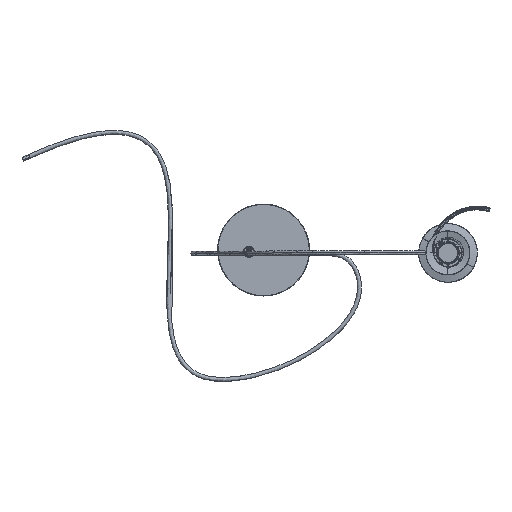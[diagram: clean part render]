
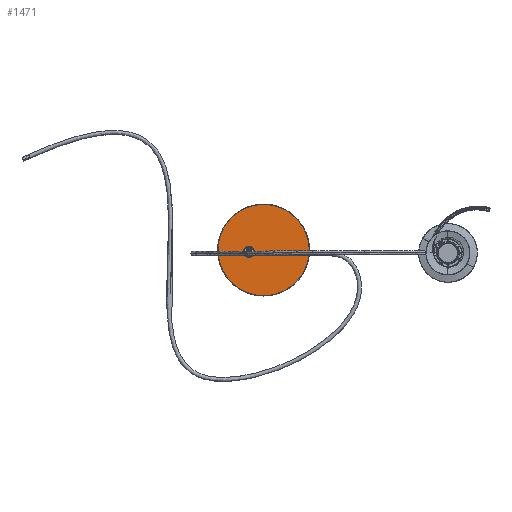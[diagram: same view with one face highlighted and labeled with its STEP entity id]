
A CAD part, top view. The second image highlights one B-rep face of the part: STEP entity #1471.
In plain terms, the highlighted planar face has unit normal (0, 0, 1).
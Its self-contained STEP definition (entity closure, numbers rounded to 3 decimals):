
#321=FACE_BOUND('',#3869,.T.);
#1471=ADVANCED_FACE('',(#2632,#321),#17466,.T.);
#2632=FACE_OUTER_BOUND('',#3868,.T.);
#3868=EDGE_LOOP('',(#9535,#9536));
#3869=EDGE_LOOP('',(#9537,#9538));
#9535=ORIENTED_EDGE('',*,*,#12418,.T.);
#9536=ORIENTED_EDGE('',*,*,#12419,.T.);
#9537=ORIENTED_EDGE('',*,*,#12420,.F.);
#9538=ORIENTED_EDGE('',*,*,#12421,.F.);
#12418=EDGE_CURVE('',#17019,#17020,#15281,.T.);
#12419=EDGE_CURVE('',#17020,#17019,#15282,.T.);
#12420=EDGE_CURVE('',#17021,#17022,#15283,.T.);
#12421=EDGE_CURVE('',#17022,#17021,#15284,.T.);
#15281=(
BOUNDED_CURVE()
B_SPLINE_CURVE(2,(#75773,#75774,#75775,#75776,#75777),.UNSPECIFIED.,.F.,
 .F.)
B_SPLINE_CURVE_WITH_KNOTS((3,2,3),(0.,194.779,389.557),
 .UNSPECIFIED.)
CURVE()
GEOMETRIC_REPRESENTATION_ITEM()
RATIONAL_B_SPLINE_CURVE((1.,0.707,1.,0.707,1.))
REPRESENTATION_ITEM('')
);
#15282=(
BOUNDED_CURVE()
B_SPLINE_CURVE(2,(#75778,#75779,#75780,#75781,#75782),.UNSPECIFIED.,.F.,
 .F.)
B_SPLINE_CURVE_WITH_KNOTS((3,2,3),(0.,194.779,389.557),
 .UNSPECIFIED.)
CURVE()
GEOMETRIC_REPRESENTATION_ITEM()
RATIONAL_B_SPLINE_CURVE((1.,0.707,1.,0.707,1.))
REPRESENTATION_ITEM('')
);
#15283=(
BOUNDED_CURVE()
B_SPLINE_CURVE(2,(#75783,#75784,#75785,#75786,#75787),.UNSPECIFIED.,.F.,
 .F.)
B_SPLINE_CURVE_WITH_KNOTS((3,2,3),(0.,10.996,21.991),
 .UNSPECIFIED.)
CURVE()
GEOMETRIC_REPRESENTATION_ITEM()
RATIONAL_B_SPLINE_CURVE((1.,0.707,1.,0.707,1.))
REPRESENTATION_ITEM('')
);
#15284=(
BOUNDED_CURVE()
B_SPLINE_CURVE(2,(#75788,#75789,#75790,#75791,#75792),.UNSPECIFIED.,.F.,
 .F.)
B_SPLINE_CURVE_WITH_KNOTS((3,2,3),(0.,10.996,21.991),
 .UNSPECIFIED.)
CURVE()
GEOMETRIC_REPRESENTATION_ITEM()
RATIONAL_B_SPLINE_CURVE((1.,0.707,1.,0.707,1.))
REPRESENTATION_ITEM('')
);
#17019=VERTEX_POINT('',#75745);
#17020=VERTEX_POINT('',#75746);
#17021=VERTEX_POINT('',#75747);
#17022=VERTEX_POINT('',#75748);
#17466=PLANE('',#18402);
#18402=AXIS2_PLACEMENT_3D('',#75628,#18597,$);
#18597=DIRECTION('',(0.,0.,1.));
#75628=CARTESIAN_POINT('',(194.,-124.,8.));
#75745=CARTESIAN_POINT('',(70.,124.,8.));
#75746=CARTESIAN_POINT('',(70.,-124.,8.));
#75747=CARTESIAN_POINT('',(30.,-7.,8.));
#75748=CARTESIAN_POINT('',(30.,7.,8.));
#75773=CARTESIAN_POINT('',(70.,124.,8.));
#75774=CARTESIAN_POINT('',(-54.,124.,8.));
#75775=CARTESIAN_POINT('',(-54.,0.,8.));
#75776=CARTESIAN_POINT('',(-54.,-124.,8.));
#75777=CARTESIAN_POINT('',(70.,-124.,8.));
#75778=CARTESIAN_POINT('',(70.,-124.,8.));
#75779=CARTESIAN_POINT('',(194.,-124.,8.));
#75780=CARTESIAN_POINT('',(194.,0.,8.));
#75781=CARTESIAN_POINT('',(194.,124.,8.));
#75782=CARTESIAN_POINT('',(70.,124.,8.));
#75783=CARTESIAN_POINT('',(30.,-7.,8.));
#75784=CARTESIAN_POINT('',(37.,-7.,8.));
#75785=CARTESIAN_POINT('',(37.,0.,8.));
#75786=CARTESIAN_POINT('',(37.,7.,8.));
#75787=CARTESIAN_POINT('',(30.,7.,8.));
#75788=CARTESIAN_POINT('',(30.,7.,8.));
#75789=CARTESIAN_POINT('',(23.,7.,8.));
#75790=CARTESIAN_POINT('',(23.,0.,8.));
#75791=CARTESIAN_POINT('',(23.,-7.,8.));
#75792=CARTESIAN_POINT('',(30.,-7.,8.));
